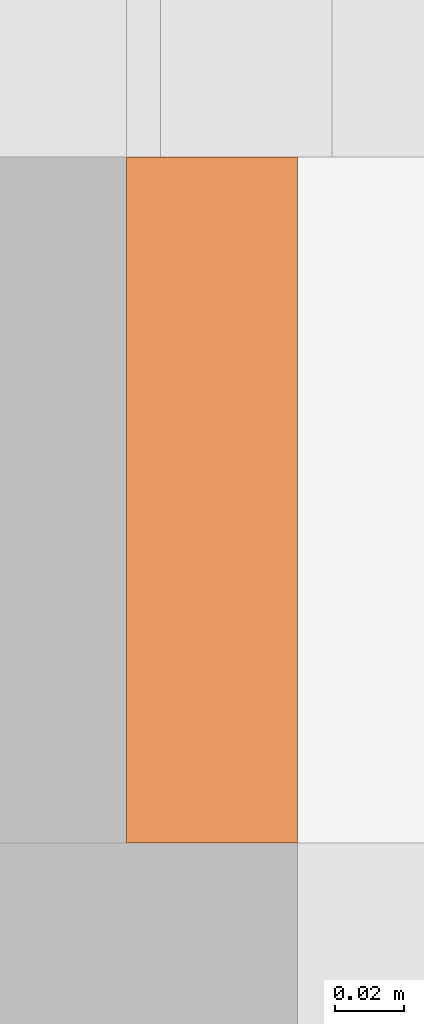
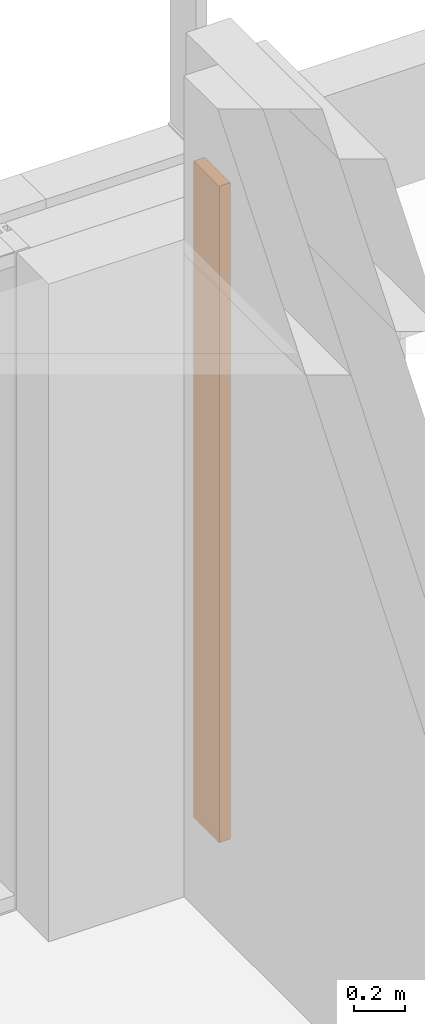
# One storey, part 239 of 240: 1 proxy.
"""IFC2X3 building model written with IfcOpenShell, lengths in centimetres."""

from ifc_helpers import new_model, entity, si_unit, converted_unit, derived_unit, direction, frame, frame_2d, origin, place, context, subcontext, project, spatial, rectangle, extrude, source, transform, mapped, material, type_object, type_shapes, element, save


model = new_model("IFC2X3")

# Units and contexts
model_context = context("Model", 3, precision=0.001, world=origin(), true_north=direction((6.12303176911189e-17, 1.0)))
body_context = subcontext(model_context, "Body", "Model", "MODEL_VIEW")
ifc_project = project(units=[si_unit("LENGTHUNIT", "METRE", prefix="CENTI"), si_unit("AREAUNIT", "SQUARE_METRE"), si_unit("VOLUMEUNIT", "CUBIC_METRE"), converted_unit("PLANEANGLEUNIT", "DEGREE", entity("IfcRatioMeasure", 0.0174532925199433), si_unit("PLANEANGLEUNIT", "RADIAN"), dimensions=[0, 0, 0, 0, 0, 0, 0]), si_unit("MASSUNIT", "GRAM", prefix="KILO"), derived_unit("MASSDENSITYUNIT", [(si_unit("MASSUNIT", "GRAM", prefix="KILO"), 1), (si_unit("LENGTHUNIT", "METRE"), -3)]), si_unit("TIMEUNIT", "SECOND"), si_unit("FREQUENCYUNIT", "HERTZ"), si_unit("THERMODYNAMICTEMPERATUREUNIT", "DEGREE_CELSIUS"), derived_unit("THERMALTRANSMITTANCEUNIT", [(si_unit("MASSUNIT", "GRAM", prefix="KILO"), 1), (si_unit("THERMODYNAMICTEMPERATUREUNIT", "KELVIN"), -1), (si_unit("TIMEUNIT", "SECOND"), -3)]), derived_unit("VOLUMETRICFLOWRATEUNIT", [(si_unit("LENGTHUNIT", "METRE"), 3), (si_unit("TIMEUNIT", "SECOND"), -1)]), si_unit("ELECTRICCURRENTUNIT", "AMPERE"), si_unit("ELECTRICVOLTAGEUNIT", "VOLT"), si_unit("POWERUNIT", "WATT"), si_unit("FORCEUNIT", "NEWTON", prefix="KILO"), si_unit("ILLUMINANCEUNIT", "LUX"), si_unit("LUMINOUSFLUXUNIT", "LUMEN"), si_unit("LUMINOUSINTENSITYUNIT", "CANDELA"), derived_unit("USERDEFINED", [(si_unit("MASSUNIT", "GRAM", prefix="KILO"), -1), (si_unit("LENGTHUNIT", "METRE"), -2), (si_unit("TIMEUNIT", "SECOND"), 3), (si_unit("LUMINOUSFLUXUNIT", "LUMEN"), 1)]), derived_unit("LINEARVELOCITYUNIT", [(si_unit("LENGTHUNIT", "METRE"), 1), (si_unit("TIMEUNIT", "SECOND"), -1)]), si_unit("PRESSUREUNIT", "PASCAL"), derived_unit("USERDEFINED", [(si_unit("LENGTHUNIT", "METRE"), -2), (si_unit("MASSUNIT", "GRAM", prefix="KILO"), 1), (si_unit("TIMEUNIT", "SECOND"), -2)])], contexts=[model_context])

# Site, building, storey, space
site_placement = place(None, frame((-2781.94577612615, 7442.24238424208, 0.0)))
site = spatial("IfcSite", under=ifc_project, at=site_placement, Name="Default", CompositionType="ELEMENT")
building_placement = place(site_placement, origin())
building = spatial("IfcBuilding", under=site, at=building_placement, CompositionType="ELEMENT")
storey_placement = place(building_placement, origin())
storey = spatial("IfcBuildingStorey", under=building, at=storey_placement, Name="N00 - COO", CompositionType="ELEMENT", Elevation=0.0)
space_placement = place(building_placement, origin())
space = spatial("IfcSpace", under=storey, at=space_placement, Name="H-2 / H-4", CompositionType="ELEMENT", InteriorOrExteriorSpace="INTERNAL")

# Proxy
ifc_material = material(Name="Aluminium")
building_element_proxy_type = type_object("IfcBuildingElementProxyType", Name="Menneau extrémité façade", PredefinedType="NOTDEFINED", material=ifc_material)
shared_shape = source(origin(), body_context, "Body", "SweptSolid", [
    extrude(rectangle(XDim=4.99999684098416, YDim=19.9999999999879, at=frame_2d((0.0, 1.07469588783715e-13), x_axis=(1.0, 0.0))), frame((-392.499881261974, -1080.0, 0.0), z_axis=(0.0, 0.0, 1.0), x_axis=(-1.0, 0.0, 0.0)), (0.0, 0.0, 1.0), 312.547087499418),
])
type_shapes(building_element_proxy_type, [shared_shape])
proxy_placement = place(space_placement, frame((-4378.0, 1100.0, 0.0)))
element("IfcBuildingElementProxy", 1, at=proxy_placement, inside=space, type_object=building_element_proxy_type, material=ifc_material, Name="Menneau extrémité façade1:Menneau extrémité façade", ObjectType="Menneau extrémité façade1:Menneau extrémité façade", context=body_context, shape_type="MappedRepresentation", body=[
    mapped(shared_shape, transform((0.0, 0.0, 0.0), scale=1.0)),
])

save(model, "model.ifc")
